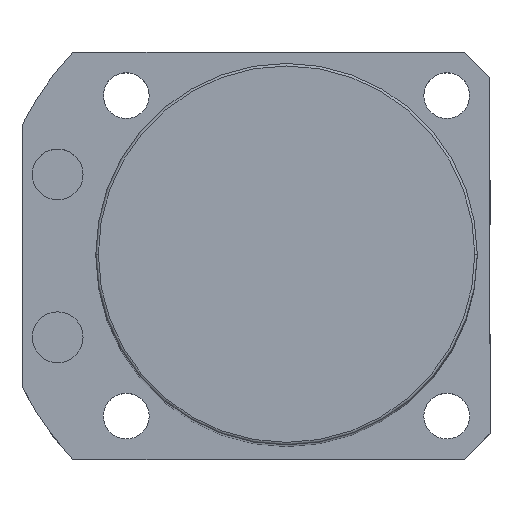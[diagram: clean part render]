
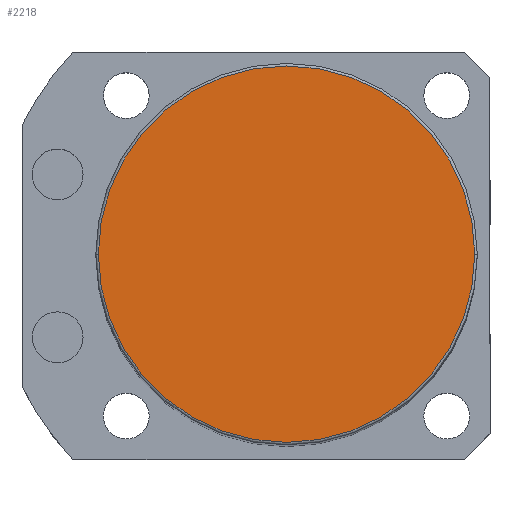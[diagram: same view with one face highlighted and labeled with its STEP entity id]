
A CAD part, top view. The second image highlights one B-rep face of the part: STEP entity #2218.
In plain terms, the highlighted planar face has unit normal (0, 0, 1).
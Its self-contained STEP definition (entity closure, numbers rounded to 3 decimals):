
#10 = VERTEX_POINT ( 'NONE', #252 ) ;
#88 = EDGE_CURVE ( 'NONE', #10, #2253, #1218, .T. ) ;
#91 = EDGE_LOOP ( 'NONE', ( #1630, #1451 ) ) ;
#252 = CARTESIAN_POINT ( 'NONE',  ( -37., 0., 210.5 ) ) ;
#336 = CARTESIAN_POINT ( 'NONE',  ( 0., 0., 210.5 ) ) ;
#1031 = EDGE_CURVE ( 'NONE', #2253, #10, #2424, .T. ) ;
#1173 = DIRECTION ( 'NONE',  ( 0., 0., 1. ) ) ;
#1218 = CIRCLE ( 'NONE', #2155, 37. ) ;
#1451 = ORIENTED_EDGE ( 'NONE', *, *, #88, .T. ) ;
#1590 = DIRECTION ( 'NONE',  ( 1., 0., 0. ) ) ;
#1630 = ORIENTED_EDGE ( 'NONE', *, *, #1031, .T. ) ;
#1880 = DIRECTION ( 'NONE',  ( 0., 0., 1. ) ) ;
#2029 = CARTESIAN_POINT ( 'NONE',  ( 0., 0., 210.5 ) ) ;
#2050 = DIRECTION ( 'NONE',  ( 1., 0., 0. ) ) ;
#2074 = AXIS2_PLACEMENT_3D ( 'NONE', #2029, #1173, #2050 ) ;
#2088 = PLANE ( 'NONE',  #2761 ) ;
#2155 = AXIS2_PLACEMENT_3D ( 'NONE', #2501, #2715, #1590 ) ;
#2218 = ADVANCED_FACE ( 'NONE', ( #2854 ), #2088, .T. ) ;
#2253 = VERTEX_POINT ( 'NONE', #2645 ) ;
#2320 = DIRECTION ( 'NONE',  ( 1., 0., 0. ) ) ;
#2424 = CIRCLE ( 'NONE', #2074, 37. ) ;
#2501 = CARTESIAN_POINT ( 'NONE',  ( 0., 0., 210.5 ) ) ;
#2645 = CARTESIAN_POINT ( 'NONE',  ( 37., 0., 210.5 ) ) ;
#2715 = DIRECTION ( 'NONE',  ( 0., 0., 1. ) ) ;
#2761 = AXIS2_PLACEMENT_3D ( 'NONE', #336, #1880, #2320 ) ;
#2854 = FACE_OUTER_BOUND ( 'NONE', #91, .T. ) ;
